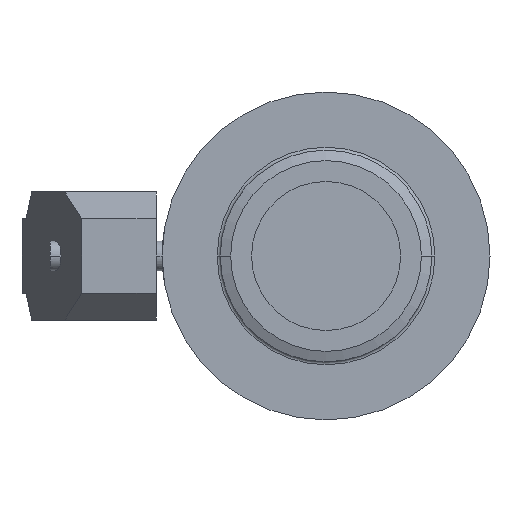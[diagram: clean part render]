
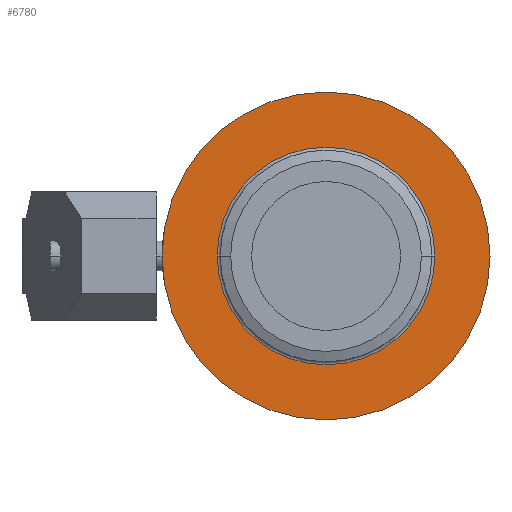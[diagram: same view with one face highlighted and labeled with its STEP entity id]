
A CAD part, left-side view. The second image highlights one B-rep face of the part: STEP entity #6780.
In plain terms, the highlighted planar face has unit normal (-1, 0, 0).
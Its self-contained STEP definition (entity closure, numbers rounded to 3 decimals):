
#2800=CARTESIAN_POINT('',(177.812,-5.297,0.));
#2810=VERTEX_POINT('',#2800);
#2840=CARTESIAN_POINT('',(177.812,49.703,0.));
#2850=DIRECTION('',(1.,0.,0.));
#2860=DIRECTION('',(0.,1.,0.));
#2870=AXIS2_PLACEMENT_3D('',#2840,#2850,#2860);
#2880=CIRCLE('',#2870,55.);
#2890=CARTESIAN_POINT('',(177.812,104.703,
0.));
#2900=VERTEX_POINT('',#2890);
#2910=EDGE_CURVE('',#2900,#2810,#2880,.T.);
#6530=CARTESIAN_POINT('',(177.812,102.353,0.));
#6540=DIRECTION('',(-1.,0.,0.));
#6550=DIRECTION('',(0.,-1.,0.));
#6560=AXIS2_PLACEMENT_3D('',#6530,#6540,#6550);
#6570=PLANE('',#6560);
#6580=CARTESIAN_POINT('',(177.812,49.703,0.));
#6590=DIRECTION('',(1.,0.,0.));
#6600=DIRECTION('',(0.,1.,0.));
#6610=AXIS2_PLACEMENT_3D('',#6580,#6590,#6600);
#6620=CIRCLE('',#6610,36.5);
#6630=CARTESIAN_POINT('',(177.812,86.203,0.));
#6640=VERTEX_POINT('',#6630);
#6650=CARTESIAN_POINT('',(177.812,13.203,0.));
#6660=VERTEX_POINT('',#6650);
#6670=EDGE_CURVE('',#6640,#6660,#6620,.T.);
#6680=ORIENTED_EDGE('',*,*,#6670,.T.);
#6690=EDGE_CURVE('',#6660,#6640,#6620,.T.);
#6700=ORIENTED_EDGE('',*,*,#6690,.T.);
#6710=EDGE_LOOP('',(#6700,#6680));
#6720=FACE_BOUND('',#6710,.T.);
#6730=ORIENTED_EDGE('',*,*,#2910,.F.);
#6740=EDGE_CURVE('',#2810,#2900,#2880,.T.);
#6750=ORIENTED_EDGE('',*,*,#6740,.F.);
#6760=EDGE_LOOP('',(#6750,#6730));
#6770=FACE_OUTER_BOUND('',#6760,.T.);
#6780=ADVANCED_FACE('',(#6720,#6770),#6570,.T.);
